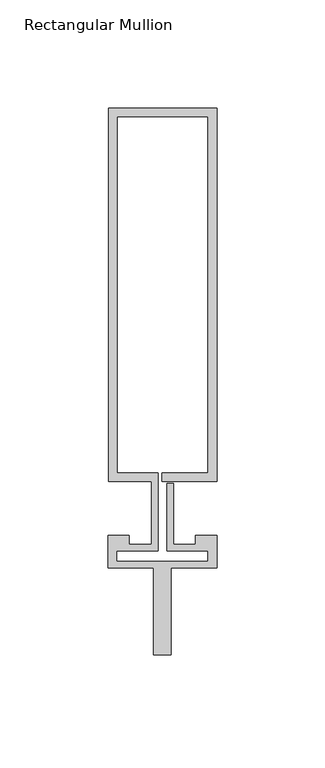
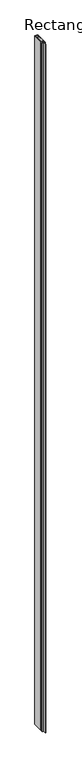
"""IFC4 building model written with IfcOpenShell, lengths in millimetres: member geometry, Rectangular Mullion : Reynaers_CW-50_Mullion-Transom_Horizontal_172.4mm_Facecap-06B."""

import ifcopenshell
import ifcopenshell.guid

model = None  # the IFC model being written
_history = None  # IfcOwnerHistory: only IFC2X3 demands one
_inside = {}  # id of a spatial element -> (the spatial element, [elements in it])
_under = {}  # id of a project, library or spatial element -> (it, [spatial elements below it])
_declared = {}  # id of a project -> (the project, [libraries it declares])
_typed = {}  # id of a type object -> (the type object, [elements of that type])
_made_of = {}  # id of a material, layer set ... -> (it, [elements and type objects made of it])


def new_model(schema):
    """Start an empty IFC model of exactly this schema.

    Asked for "IFC4X3", IfcOpenShell would pick the latest addendum, in which some entities
    have other attributes; the version numbers below select the first issue.
    IFC2X3 requires an IfcOwnerHistory on every rooted entity: one is made here for all.
    """
    global model, _history
    if schema == "IFC4X3":
        model = ifcopenshell.file(schema_version=(4, 3, 0, 0))
    else:
        model = ifcopenshell.file(schema=schema)
    _inside.clear()
    _under.clear()
    _declared.clear()
    _typed.clear()
    _made_of.clear()
    _history = None
    if model.schema == "IFC2X3":
        org = make("IfcOrganization", Name="unknown")
        user = make(
            "IfcPersonAndOrganization",
            ThePerson=make("IfcPerson", FamilyName="unknown"),
            TheOrganization=org,
        )
        app = make(
            "IfcApplication",
            ApplicationDeveloper=org,
            Version="unknown",
            ApplicationFullName="unknown",
            ApplicationIdentifier="unknown",
        )
        _history = make(
            "IfcOwnerHistory",
            OwningUser=user,
            OwningApplication=app,
            ChangeAction="ADDED",
            CreationDate=0,
        )
    return model


def make(cls, **values):
    """One entity of the class cls with the attributes given. An attribute that is None is left unset."""
    return model.create_entity(
        cls, **{name: value for name, value in values.items() if value is not None}
    )


def rooted(cls, **values):
    """An entity with a GlobalId (a new one), such as an element, a storey or a relation."""
    return make(cls, GlobalId=ifcopenshell.guid.new(), OwnerHistory=_history, **values)


def si_unit(unit_type, name, prefix=None):
    """IfcSIUnit, for example si_unit("LENGTHUNIT", "METRE", prefix="MILLI")."""
    return make("IfcSIUnit", UnitType=unit_type, Prefix=prefix, Name=name)


def assignment(units):
    """IfcUnitAssignment: the units of a project."""
    return None if units is None else make("IfcUnitAssignment", Units=units)


def point(xyz):
    """IfcCartesianPoint."""
    return None if xyz is None else make("IfcCartesianPoint", Coordinates=xyz)


def direction(xyz):
    """IfcDirection."""
    return None if xyz is None else make("IfcDirection", DirectionRatios=xyz)


def frame(location, z_axis=None, x_axis=None):
    """IfcAxis2Placement3D, a coordinate frame: its origin and axes. An axis left out is left unset."""
    return make(
        "IfcAxis2Placement3D",
        Location=point(location),
        Axis=direction(z_axis),
        RefDirection=direction(x_axis),
    )


def origin():
    """The frame at (0, 0, 0) with its axes left unset."""
    return frame((0.0, 0.0, 0.0))


def place(relative_to, where):
    """IfcLocalPlacement: puts the frame where relative to a parent placement (None: the world)."""
    return make(
        "IfcLocalPlacement", PlacementRelTo=relative_to, RelativePlacement=where
    )


def context(
    kind, dimensions, precision=None, world=None, true_north=None, identifier=None
):
    """IfcGeometricRepresentationContext, for example the 3D "Model" context."""
    return make(
        "IfcGeometricRepresentationContext",
        ContextIdentifier=identifier,
        ContextType=kind,
        CoordinateSpaceDimension=dimensions,
        Precision=precision,
        WorldCoordinateSystem=world,
        TrueNorth=true_north,
    )


def project(units=None, contexts=None):
    """IfcProject with its units and contexts."""
    return rooted(
        "IfcProject",
        Name="project",
        RepresentationContexts=contexts,
        UnitsInContext=assignment(units),
    )


def spatial(cls, under=None, at=None, **own):
    """A site, building, storey or space (cls), placed at a placement, below another one or the project."""
    s = rooted(cls, ObjectPlacement=at, **own)
    if under is not None:
        _under.setdefault(under.id(), (under, []))[1].append(s)
    return s


def polyline(points):
    """IfcPolyline through the points."""
    return make("IfcPolyline", Points=[point(p) for p in points])


def outline(outer, holes=None, kind="AREA"):
    """IfcArbitraryClosedProfileDef: a profile drawn as a closed curve; with holes, ...WithVoids."""
    if holes is None:
        return make("IfcArbitraryClosedProfileDef", ProfileType=kind, OuterCurve=outer)
    return make(
        "IfcArbitraryProfileDefWithVoids",
        ProfileType=kind,
        OuterCurve=outer,
        InnerCurves=holes,
    )


def extrude(swept, where, along, depth):
    """IfcExtrudedAreaSolid: the profile swept, set in the frame where, extruded along a direction by depth."""
    return make(
        "IfcExtrudedAreaSolid",
        SweptArea=swept,
        Position=where,
        ExtrudedDirection=direction(along),
        Depth=depth,
    )


def shape(context_of_items, identifier, shape_type, items):
    """IfcShapeRepresentation: the items that make up one representation, for example the "Body"."""
    return make(
        "IfcShapeRepresentation",
        ContextOfItems=context_of_items,
        RepresentationIdentifier=identifier,
        RepresentationType=shape_type,
        Items=items,
    )


def source(mapping_origin, context_of_items, identifier, shape_type, items):
    """IfcRepresentationMap: a shape defined once, which mapped items show again and again."""
    return make(
        "IfcRepresentationMap",
        MappingOrigin=mapping_origin,
        MappedRepresentation=shape(context_of_items, identifier, shape_type, items),
    )


def transform(
    local_origin,
    x_axis=None,
    y_axis=None,
    z_axis=None,
    scale=None,
    scale2=None,
    scale3=None,
    uniform=True,
):
    """IfcCartesianTransformationOperator3D, or its non-uniform kind. x_axis, y_axis, z_axis: its Axis1, 2, 3."""
    if uniform:
        return make(
            "IfcCartesianTransformationOperator3D",
            Axis1=direction(x_axis),
            Axis2=direction(y_axis),
            LocalOrigin=point(local_origin),
            Scale=scale,
            Axis3=direction(z_axis),
        )
    return make(
        "IfcCartesianTransformationOperator3DnonUniform",
        Axis1=direction(x_axis),
        Axis2=direction(y_axis),
        LocalOrigin=point(local_origin),
        Scale=scale,
        Axis3=direction(z_axis),
        Scale2=scale2,
        Scale3=scale3,
    )


def mapped(mapping_source, mapping_target):
    """IfcMappedItem: shows the shape of a source again, moved by a transform."""
    return make(
        "IfcMappedItem", MappingSource=mapping_source, MappingTarget=mapping_target
    )


def made_of(thing, what):
    """Note that an element or type object is made of a material, layer set ...; save() writes the relation."""
    if what is not None:
        _made_of.setdefault(what.id(), (what, []))[1].append(thing)
    return thing


def element(
    cls,
    number,
    at=None,
    inside=None,
    cuts=None,
    type_object=None,
    material=None,
    context=None,
    identifier="Body",
    shape_type=None,
    held_by="IfcProductDefinitionShape",
    body=None,
    shapes=None,
    **own,
):
    """One element of the class cls, such as IfcWall. Its Tag is "e" and its number.

    at: its placement. inside: the storey or other place that contains it. cuts: it is an
    opening in that element (IfcRelVoidsElement). A single representation is given by context,
    identifier, shape_type and body (its items); several are given by shapes. held_by: the class
    of the entity that holds the representations. save() writes the other relations.
    """
    e = rooted(cls, Tag="e%d" % number, ObjectPlacement=at, **own)
    if body is not None:
        shapes = [shape(context, identifier, shape_type, body)]
    if shapes is not None:
        e.Representation = make(held_by, Representations=shapes)
    if inside is not None:
        _inside.setdefault(inside.id(), (inside, []))[1].append(e)
    if cuts is not None:
        rooted(
            "IfcRelVoidsElement", RelatingBuildingElement=cuts, RelatedOpeningElement=e
        )
    if type_object is not None:
        _typed.setdefault(type_object.id(), (type_object, []))[1].append(e)
    return made_of(e, material)


def aggregate(whole, parts):
    """IfcRelAggregates: a whole, such as a stair, and the parts it consists of."""
    return rooted("IfcRelAggregates", RelatingObject=whole, RelatedObjects=parts)


def save(model, path):
    """Write the relations noted so far, then the file.

    IfcRelAggregates (storeys below a building ...), IfcRelContainedInSpatialStructure (elements
    in a storey), IfcRelDefinesByType, IfcRelAssociatesMaterial and IfcRelDeclares: one each for
    every whole, place, type object, material and project.
    """
    for whole, parts in _under.values():
        aggregate(whole, parts)
    for where, things in _inside.values():
        rooted(
            "IfcRelContainedInSpatialStructure",
            RelatedElements=things,
            RelatingStructure=where,
        )
    for kind, things in _typed.values():
        rooted("IfcRelDefinesByType", RelatedObjects=things, RelatingType=kind)
    for what, things in _made_of.values():
        rooted("IfcRelAssociatesMaterial", RelatedObjects=things, RelatingMaterial=what)
    for by, libraries in _declared.values():
        rooted("IfcRelDeclares", RelatingContext=by, RelatedDefinitions=libraries)
    model.write(path)


def rectangular_mullion_bfe2b55c(model_context):
    return source(origin(), model_context, "Body", "SweptSolid", [
        extrude(outline(polyline([(-24.8004059, 184.9), (25.1995941, 184.9), (25.1995941, 12.5), (0.0, 12.5), (0.0, 16.5), (21.1995941, 16.5), (21.1995941, 180.9), (-20.8004059, 180.9), (-20.8004059, 16.5), (-1.9004059, 16.5), (-1.9004059, -19.5), (-20.994845, -19.5), (-20.994845, -24.4191338), (21.1995941, -24.4191338), (21.1995941, -19.5), (2.2995941, -19.5), (2.2995941, 11.5), (5.2995941, 11.5), (5.2995941, -16.5), (15.2996495, -16.5), (15.2996495, -12.5), (25.1995941, -12.5), (25.1995941, -27.5), (4.004855, -27.5), (4.004855, -67.5), (-3.995145, -67.5), (-3.995145, -27.5), (-24.994845, -27.5), (-24.994845, -12.5), (-15.2996495, -12.5), (-15.2996495, -16.5), (-4.9004059, -16.5), (-4.9004059, 12.5), (-24.8004059, 12.5), (-24.8004059, 184.9)])), frame((0.0, 0.0, -12000.0), z_axis=(0.0, 0.0, 1.0), x_axis=(1.0, 0.0, 0.0)), (0.0, 0.0, 1.0), 12000.0),
    ])


if __name__ == "__main__":
    model = new_model("IFC4")
    model_context = context("Model", 3, world=origin())
    ifc_project = project(units=[si_unit("LENGTHUNIT", "METRE", prefix="MILLI")], contexts=[model_context])
    site = spatial("IfcSite", under=ifc_project)
    building = spatial("IfcBuilding", under=site)
    placement = place(None, origin())
    rectangular_mullion_shape = rectangular_mullion_bfe2b55c(model_context)
    element("IfcMember", 1, ObjectType="Rectangular Mullion : Reynaers_CW-50_Mullion-Transom_Horizontal_172.4mm_Facecap-06B", at=placement, inside=building, context=model_context, shape_type="MappedRepresentation", body=[
        mapped(rectangular_mullion_shape, transform((0.0, 0.0, 0.0), x_axis=(1.0, 0.0, 0.0), y_axis=(0.0, 1.0, 0.0), z_axis=(0.0, 0.0, 1.0))),
    ])
    save(model, "model.ifc")
